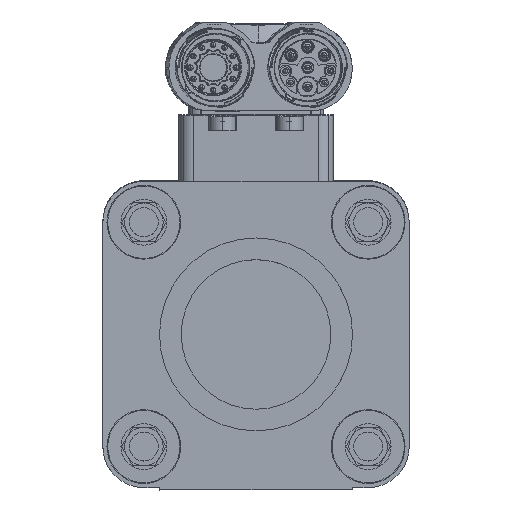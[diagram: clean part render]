
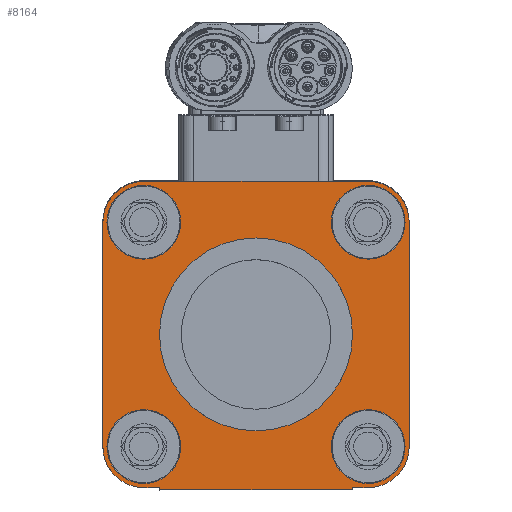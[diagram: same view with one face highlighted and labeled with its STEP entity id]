
A CAD part, left-side view. The second image highlights one B-rep face of the part: STEP entity #8164.
In plain terms, the highlighted planar face has unit normal (-1, 0, -0.001) as drawn and (0, 0, 1) by its records, which use the part's own axes.
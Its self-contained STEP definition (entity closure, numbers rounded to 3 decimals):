
#8164=ADVANCED_FACE('10:20',(#16431,#16432,#16433,#16434,#16435,#16436),#16437,.T.);
#16431=FACE_BOUND('',#35130,.T.);
#16432=FACE_BOUND('',#35131,.T.);
#16433=FACE_BOUND('',#35132,.T.);
#16434=FACE_BOUND('',#35133,.T.);
#16435=FACE_BOUND('',#35134,.T.);
#16436=FACE_OUTER_BOUND('',#35135,.T.);
#16437=PLANE('',#35136);
#35130=EDGE_LOOP('',(#61106,#61107));
#35131=EDGE_LOOP('',(#61108,#61109));
#35132=EDGE_LOOP('',(#61110,#61111));
#35133=EDGE_LOOP('',(#61112,#61113));
#35134=EDGE_LOOP('',(#61114,#61115));
#35135=EDGE_LOOP('',(#61116,#61117,#61118,#61119,#61120,#61121,#61122,#61123,#61124,#61125,#61126,#61127,#61128,#61129,#61130,#61131));
#35136=AXIS2_PLACEMENT_3D('',#61132,#61133,#61134);
#61106=ORIENTED_EDGE('',*,*,#77524,.F.);
#61107=ORIENTED_EDGE('',*,*,#74136,.F.);
#61108=ORIENTED_EDGE('',*,*,#73631,.F.);
#61109=ORIENTED_EDGE('',*,*,#76627,.F.);
#61110=ORIENTED_EDGE('',*,*,#76651,.F.);
#61111=ORIENTED_EDGE('',*,*,#77525,.F.);
#61112=ORIENTED_EDGE('',*,*,#73475,.F.);
#61113=ORIENTED_EDGE('',*,*,#77526,.F.);
#61114=ORIENTED_EDGE('',*,*,#74184,.F.);
#61115=ORIENTED_EDGE('',*,*,#77527,.F.);
#61116=ORIENTED_EDGE('',*,*,#77528,.F.);
#61117=ORIENTED_EDGE('',*,*,#77529,.F.);
#61118=ORIENTED_EDGE('',*,*,#77530,.F.);
#61119=ORIENTED_EDGE('',*,*,#77531,.F.);
#61120=ORIENTED_EDGE('',*,*,#72447,.F.);
#61121=ORIENTED_EDGE('',*,*,#73304,.F.);
#61122=ORIENTED_EDGE('',*,*,#77532,.F.);
#61123=ORIENTED_EDGE('',*,*,#71882,.F.);
#61124=ORIENTED_EDGE('',*,*,#71232,.F.);
#61125=ORIENTED_EDGE('',*,*,#73485,.F.);
#61126=ORIENTED_EDGE('',*,*,#72601,.F.);
#61127=ORIENTED_EDGE('',*,*,#75020,.F.);
#61128=ORIENTED_EDGE('',*,*,#71920,.F.);
#61129=ORIENTED_EDGE('',*,*,#77533,.F.);
#61130=ORIENTED_EDGE('',*,*,#77534,.F.);
#61131=ORIENTED_EDGE('',*,*,#77535,.F.);
#61132=CARTESIAN_POINT('',(0.0,0.0,34.0));
#61133=DIRECTION('',(0.0,0.0,1.0));
#61134=DIRECTION('',(1.0,0.0,0.0));
#71232=EDGE_CURVE('',#84049,#84051,#84052,.F.);
#71882=EDGE_CURVE('',#84051,#85178,#85179,.F.);
#71920=EDGE_CURVE('',#85243,#85245,#85246,.T.);
#72447=EDGE_CURVE('',#86144,#86140,#86146,.F.);
#72601=EDGE_CURVE('',#86411,#86413,#86414,.F.);
#73304=EDGE_CURVE('',#87640,#86144,#87642,.F.);
#73475=EDGE_CURVE('',#87967,#87963,#87969,.F.);
#73485=EDGE_CURVE('',#86413,#84049,#87983,.F.);
#73631=EDGE_CURVE('',#88223,#88219,#88225,.F.);
#74136=EDGE_CURVE('',#89096,#89098,#89099,.T.);
#74184=EDGE_CURVE('',#89177,#89173,#89179,.F.);
#75020=EDGE_CURVE('',#85245,#86411,#90588,.T.);
#76627=EDGE_CURVE('',#88219,#88223,#93334,.F.);
#76651=EDGE_CURVE('',#93374,#93370,#93376,.F.);
#77524=EDGE_CURVE('',#89098,#89096,#94853,.T.);
#77525=EDGE_CURVE('',#93370,#93374,#94854,.F.);
#77526=EDGE_CURVE('',#87963,#87967,#94855,.F.);
#77527=EDGE_CURVE('',#89173,#89177,#94856,.F.);
#77528=EDGE_CURVE('',#94857,#94858,#94859,.F.);
#77529=EDGE_CURVE('',#94860,#94857,#94861,.F.);
#77530=EDGE_CURVE('',#94862,#94860,#94863,.F.);
#77531=EDGE_CURVE('',#86140,#94862,#94864,.F.);
#77532=EDGE_CURVE('',#85178,#87640,#94865,.F.);
#77533=EDGE_CURVE('',#94866,#85243,#94867,.T.);
#77534=EDGE_CURVE('',#94868,#94866,#94869,.F.);
#77535=EDGE_CURVE('',#94858,#94868,#94870,.F.);
#84049=VERTEX_POINT('',#105909);
#84051=VERTEX_POINT('',#105912);
#84052=CIRCLE('',#105913,8.5);
#85178=VERTEX_POINT('',#108397);
#85179=LINE('',#108398,#108399);
#85243=VERTEX_POINT('',#108528);
#85245=VERTEX_POINT('',#108531);
#85246=LINE('',#108532,#108533);
#86140=VERTEX_POINT('',#110211);
#86144=VERTEX_POINT('',#110217);
#86146=LINE('',#110220,#110221);
#86411=VERTEX_POINT('',#110709);
#86413=VERTEX_POINT('',#110712);
#86414=LINE('',#110713,#110714);
#87640=VERTEX_POINT('',#112892);
#87642=CIRCLE('',#112895,8.5);
#87963=VERTEX_POINT('',#113354);
#87967=VERTEX_POINT('',#113359);
#87969=CIRCLE('',#113362,7.65);
#87983=CIRCLE('',#113396,8.5);
#88219=VERTEX_POINT('',#113779);
#88223=VERTEX_POINT('',#113784);
#88225=CIRCLE('',#113787,7.65);
#89096=VERTEX_POINT('',#115475);
#89098=VERTEX_POINT('',#115478);
#89099=CIRCLE('',#115479,20.0);
#89173=VERTEX_POINT('',#115627);
#89177=VERTEX_POINT('',#115632);
#89179=CIRCLE('',#115635,7.65);
#90588=LINE('',#118276,#118277);
#93334=CIRCLE('',#123611,7.65);
#93370=VERTEX_POINT('',#123674);
#93374=VERTEX_POINT('',#123679);
#93376=CIRCLE('',#123682,7.65);
#94853=CIRCLE('',#126437,20.0);
#94854=CIRCLE('',#126438,7.65);
#94855=CIRCLE('',#126439,7.65);
#94856=CIRCLE('',#126440,7.65);
#94857=VERTEX_POINT('',#126441);
#94858=VERTEX_POINT('',#126442);
#94859=CIRCLE('',#126443,8.5);
#94860=VERTEX_POINT('',#126444);
#94861=LINE('',#126445,#126446);
#94862=VERTEX_POINT('',#126447);
#94863=CIRCLE('',#126448,8.5);
#94864=CIRCLE('',#126449,8.5);
#94865=CIRCLE('',#126450,8.5);
#94866=VERTEX_POINT('',#126451);
#94867=LINE('',#126452,#126453);
#94868=VERTEX_POINT('',#126454);
#94869=LINE('',#126455,#126456);
#94870=CIRCLE('',#126457,8.5);
#105909=CARTESIAN_POINT('',(-13.451,-42.647,34.0));
#105912=CARTESIAN_POINT('',(-15.941,-36.636,34.0));
#105913=AXIS2_PLACEMENT_3D('',#147307,#147308,#147309);
#108397=CARTESIAN_POINT('',(-15.941,9.864,34.0));
#108398=CARTESIAN_POINT('',(-15.941,-6.693,34.0));
#108399=VECTOR('',#147969,1.0);
#108528=CARTESIAN_POINT('',(35.809,-45.636,34.0));
#108531=CARTESIAN_POINT('',(-4.191,-45.636,34.0));
#108532=CARTESIAN_POINT('',(35.809,-45.636,34.0));
#108533=VECTOR('',#148007,1.0);
#110211=CARTESIAN_POINT('',(39.059,18.364,34.0));
#110217=CARTESIAN_POINT('',(-7.441,18.364,34.0));
#110220=CARTESIAN_POINT('',(7.904,18.364,34.0));
#110221=VECTOR('',#148586,1.0);
#110709=CARTESIAN_POINT('',(-4.191,-45.136,34.0));
#110712=CARTESIAN_POINT('',(-7.441,-45.136,34.0));
#110713=CARTESIAN_POINT('',(7.904,-45.136,34.0));
#110714=VECTOR('',#148766,1.0);
#112892=CARTESIAN_POINT('',(-13.451,15.874,34.0));
#112895=AXIS2_PLACEMENT_3D('',#149658,#149659,#149660);
#113354=CARTESIAN_POINT('',(46.709,9.864,34.0));
#113359=CARTESIAN_POINT('',(31.409,9.864,34.0));
#113362=AXIS2_PLACEMENT_3D('',#149953,#149954,#149955);
#113396=AXIS2_PLACEMENT_3D('',#149965,#149966,#149967);
#113779=CARTESIAN_POINT('',(46.709,-36.636,34.0));
#113784=CARTESIAN_POINT('',(31.409,-36.636,34.0));
#113787=AXIS2_PLACEMENT_3D('',#150146,#150147,#150148);
#115475=CARTESIAN_POINT('',(35.809,-13.386,34.0));
#115478=CARTESIAN_POINT('',(-4.191,-13.386,34.0));
#115479=AXIS2_PLACEMENT_3D('',#150689,#150690,#150691);
#115627=CARTESIAN_POINT('',(0.209,9.864,34.0));
#115632=CARTESIAN_POINT('',(-15.091,9.864,34.0));
#115635=AXIS2_PLACEMENT_3D('',#150742,#150743,#150744);
#118276=CARTESIAN_POINT('',(-4.191,-45.636,34.0));
#118277=VECTOR('',#151657,1.0);
#123611=AXIS2_PLACEMENT_3D('',#153513,#153514,#153515);
#123674=CARTESIAN_POINT('',(0.209,-36.636,34.0));
#123679=CARTESIAN_POINT('',(-15.091,-36.636,34.0));
#123682=AXIS2_PLACEMENT_3D('',#153550,#153551,#153552);
#126437=AXIS2_PLACEMENT_3D('',#154521,#154522,#154523);
#126438=AXIS2_PLACEMENT_3D('',#154524,#154525,#154526);
#126439=AXIS2_PLACEMENT_3D('',#154527,#154528,#154529);
#126440=AXIS2_PLACEMENT_3D('',#154530,#154531,#154532);
#126441=CARTESIAN_POINT('',(47.559,-36.636,34.0));
#126442=CARTESIAN_POINT('',(45.069,-42.647,34.0));
#126443=AXIS2_PLACEMENT_3D('',#154533,#154534,#154535);
#126444=CARTESIAN_POINT('',(47.559,9.864,34.0));
#126445=CARTESIAN_POINT('',(47.559,-6.693,34.0));
#126446=VECTOR('',#154536,1.0);
#126447=CARTESIAN_POINT('',(45.069,15.874,34.0));
#126448=AXIS2_PLACEMENT_3D('',#154537,#154538,#154539);
#126449=AXIS2_PLACEMENT_3D('',#154540,#154541,#154542);
#126450=AXIS2_PLACEMENT_3D('',#154543,#154544,#154545);
#126451=CARTESIAN_POINT('',(35.809,-45.136,34.0));
#126452=CARTESIAN_POINT('',(35.809,-45.136,34.0));
#126453=VECTOR('',#154546,1.0);
#126454=CARTESIAN_POINT('',(39.059,-45.136,34.0));
#126455=CARTESIAN_POINT('',(7.904,-45.136,34.0));
#126456=VECTOR('',#154547,1.0);
#126457=AXIS2_PLACEMENT_3D('',#154548,#154549,#154550);
#147307=CARTESIAN_POINT('',(-7.441,-36.636,34.0));
#147308=DIRECTION('',(0.0,0.0,1.0));
#147309=DIRECTION('',(-0.707,-0.707,0.0));
#147969=DIRECTION('',(0.0,-1.0,0.0));
#148007=DIRECTION('',(-1.0,0.0,0.0));
#148586=DIRECTION('',(-1.0,0.0,0.0));
#148766=DIRECTION('',(1.0,0.0,-0.0));
#149658=CARTESIAN_POINT('',(-7.441,9.864,34.0));
#149659=DIRECTION('',(0.0,0.0,1.0));
#149660=DIRECTION('',(-0.707,0.707,0.0));
#149953=CARTESIAN_POINT('',(39.059,9.864,34.0));
#149954=DIRECTION('',(0.0,0.0,-1.0));
#149955=DIRECTION('',(1.0,0.0,0.0));
#149965=CARTESIAN_POINT('',(-7.441,-36.636,34.0));
#149966=DIRECTION('',(0.0,0.0,1.0));
#149967=DIRECTION('',(-0.707,-0.707,0.0));
#150146=CARTESIAN_POINT('',(39.059,-36.636,34.0));
#150147=DIRECTION('',(0.0,0.0,-1.0));
#150148=DIRECTION('',(1.0,0.0,0.0));
#150689=CARTESIAN_POINT('',(15.809,-13.386,34.0));
#150690=DIRECTION('',(0.0,0.0,1.0));
#150691=DIRECTION('',(1.0,0.0,-0.0));
#150742=CARTESIAN_POINT('',(-7.441,9.864,34.0));
#150743=DIRECTION('',(0.0,0.0,-1.0));
#150744=DIRECTION('',(1.0,0.0,0.0));
#151657=DIRECTION('',(0.0,1.0,0.0));
#153513=CARTESIAN_POINT('',(39.059,-36.636,34.0));
#153514=DIRECTION('',(0.0,0.0,-1.0));
#153515=DIRECTION('',(1.0,0.0,0.0));
#153550=CARTESIAN_POINT('',(-7.441,-36.636,34.0));
#153551=DIRECTION('',(0.0,0.0,-1.0));
#153552=DIRECTION('',(1.0,0.0,0.0));
#154521=CARTESIAN_POINT('',(15.809,-13.386,34.0));
#154522=DIRECTION('',(0.0,0.0,1.0));
#154523=DIRECTION('',(1.0,0.0,-0.0));
#154524=CARTESIAN_POINT('',(-7.441,-36.636,34.0));
#154525=DIRECTION('',(0.0,0.0,-1.0));
#154526=DIRECTION('',(1.0,0.0,0.0));
#154527=CARTESIAN_POINT('',(39.059,9.864,34.0));
#154528=DIRECTION('',(0.0,0.0,-1.0));
#154529=DIRECTION('',(1.0,0.0,0.0));
#154530=CARTESIAN_POINT('',(-7.441,9.864,34.0));
#154531=DIRECTION('',(0.0,0.0,-1.0));
#154532=DIRECTION('',(1.0,0.0,0.0));
#154533=CARTESIAN_POINT('',(39.059,-36.636,34.0));
#154534=DIRECTION('',(0.0,0.0,1.0));
#154535=DIRECTION('',(0.707,-0.707,0.0));
#154536=DIRECTION('',(-0.0,1.0,0.0));
#154537=CARTESIAN_POINT('',(39.059,9.864,34.0));
#154538=DIRECTION('',(0.0,-0.0,1.0));
#154539=DIRECTION('',(0.707,0.707,0.0));
#154540=CARTESIAN_POINT('',(39.059,9.864,34.0));
#154541=DIRECTION('',(0.0,-0.0,1.0));
#154542=DIRECTION('',(0.707,0.707,0.0));
#154543=CARTESIAN_POINT('',(-7.441,9.864,34.0));
#154544=DIRECTION('',(0.0,0.0,1.0));
#154545=DIRECTION('',(-0.707,0.707,0.0));
#154546=DIRECTION('',(0.0,-1.0,0.0));
#154547=DIRECTION('',(1.0,0.0,-0.0));
#154548=CARTESIAN_POINT('',(39.059,-36.636,34.0));
#154549=DIRECTION('',(0.0,0.0,1.0));
#154550=DIRECTION('',(0.707,-0.707,0.0));
